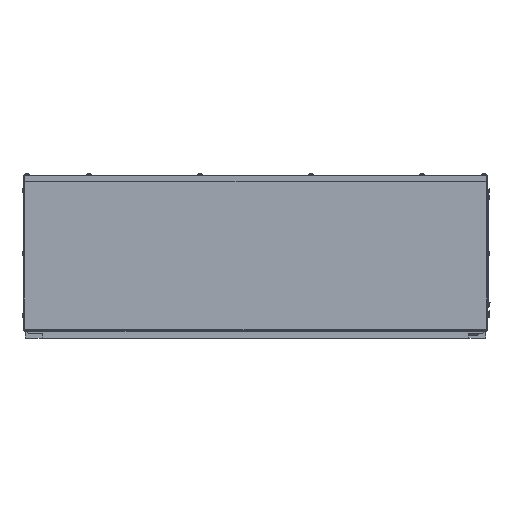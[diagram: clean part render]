
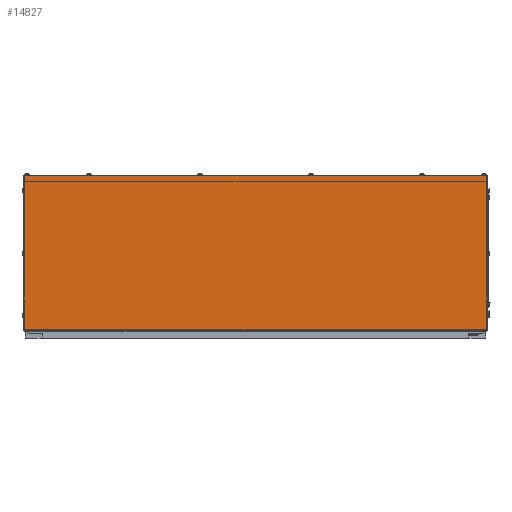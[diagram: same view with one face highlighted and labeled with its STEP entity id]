
A CAD part, top view. The second image highlights one B-rep face of the part: STEP entity #14827.
In plain terms, the highlighted planar face has unit normal (0, 0, 1) as drawn and (0, 0, -1) by its records, which use the part's own axes.
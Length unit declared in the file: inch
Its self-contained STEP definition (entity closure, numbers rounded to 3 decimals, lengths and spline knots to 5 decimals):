
#65 = VECTOR ( 'NONE', #36903, 39.37008 ) ;
#563 = VERTEX_POINT ( 'NONE', #7125 ) ;
#852 = VERTEX_POINT ( 'NONE', #1203 ) ;
#1203 = CARTESIAN_POINT ( 'NONE',  ( 9.03501, 27.32468, 0. ) ) ;
#1511 = ORIENTED_EDGE ( 'NONE', *, *, #5220, .T. ) ;
#2231 = LINE ( 'NONE', #10672, #17894 ) ;
#3032 = CARTESIAN_POINT ( 'NONE',  ( 22.83461, 27.32533, 0. ) ) ;
#3308 = VECTOR ( 'NONE', #29540, 39.37008 ) ;
#4839 = ORIENTED_EDGE ( 'NONE', *, *, #6939, .T. ) ;
#5152 = ORIENTED_EDGE ( 'NONE', *, *, #5762, .T. ) ;
#5220 = EDGE_CURVE ( 'NONE', #25542, #13675, #11882, .T. ) ;
#5503 = EDGE_CURVE ( 'NONE', #13706, #30509, #2231, .T. ) ;
#5762 = EDGE_CURVE ( 'NONE', #563, #27945, #26646, .T. ) ;
#5803 = ORIENTED_EDGE ( 'NONE', *, *, #6481, .T. ) ;
#6158 = EDGE_CURVE ( 'NONE', #29632, #34717, #17963, .T. ) ;
#6481 = EDGE_CURVE ( 'NONE', #34717, #25542, #22386, .T. ) ;
#6485 = EDGE_CURVE ( 'NONE', #13675, #15589, #14821, .T. ) ;
#6655 = EDGE_CURVE ( 'NONE', #15589, #19668, #8336, .T. ) ;
#6659 = EDGE_CURVE ( 'NONE', #19668, #13706, #11152, .T. ) ;
#6662 = EDGE_CURVE ( 'NONE', #30509, #563, #9271, .T. ) ;
#6780 = EDGE_CURVE ( 'NONE', #27945, #10328, #18492, .T. ) ;
#6939 = EDGE_CURVE ( 'NONE', #10328, #852, #13982, .T. ) ;
#6995 = EDGE_CURVE ( 'NONE', #852, #29632, #8849, .T. ) ;
#7125 = CARTESIAN_POINT ( 'NONE',  ( 9.06566, -14.25492, 0. ) ) ;
#7159 = CARTESIAN_POINT ( 'NONE',  ( 9.06566, -14.25427, 0. ) ) ;
#7169 = DIRECTION ( 'NONE',  ( 0., 1., 0. ) ) ;
#7273 = AXIS2_PLACEMENT_3D ( 'NONE', #25964, #25230, #24798 ) ;
#8007 = CARTESIAN_POINT ( 'NONE',  ( 9.06566, 27.32533, 0. ) ) ;
#8009 = ORIENTED_EDGE ( 'NONE', *, *, #6662, .T. ) ;
#8336 = LINE ( 'NONE', #30733, #3308 ) ;
#8663 = ORIENTED_EDGE ( 'NONE', *, *, #5503, .T. ) ;
#8849 = LINE ( 'NONE', #23083, #9792 ) ;
#9051 = ORIENTED_EDGE ( 'NONE', *, *, #6485, .T. ) ;
#9271 = LINE ( 'NONE', #29416, #19780 ) ;
#9591 = ORIENTED_EDGE ( 'NONE', *, *, #6655, .T. ) ;
#9792 = VECTOR ( 'NONE', #22912, 39.37008 ) ;
#10328 = VERTEX_POINT ( 'NONE', #36123 ) ;
#10500 = DIRECTION ( 'NONE',  ( 0., -1., 0. ) ) ;
#10672 = CARTESIAN_POINT ( 'NONE',  ( 22.83461, -14.25427, 0. ) ) ;
#11070 = CARTESIAN_POINT ( 'NONE',  ( 9.06566, -14.25427, 0. ) ) ;
#11152 = LINE ( 'NONE', #29563, #26332 ) ;
#11416 = ORIENTED_EDGE ( 'NONE', *, *, #6995, .T. ) ;
#11610 = CARTESIAN_POINT ( 'NONE',  ( 9.06566, 27.42468, 0. ) ) ;
#11882 = LINE ( 'NONE', #15433, #15595 ) ;
#13675 = VERTEX_POINT ( 'NONE', #33110 ) ;
#13706 = VERTEX_POINT ( 'NONE', #32637 ) ;
#13982 = LINE ( 'NONE', #24425, #22457 ) ;
#14579 = CARTESIAN_POINT ( 'NONE',  ( 32.20934, 27.32468, 0. ) ) ;
#14821 = LINE ( 'NONE', #14579, #65 ) ;
#14827 = ADVANCED_FACE ( 'NONE', ( #31995 ), #25742, .T. ) ;
#15075 = DIRECTION ( 'NONE',  ( 0., -1., 0. ) ) ;
#15433 = CARTESIAN_POINT ( 'NONE',  ( 22.83461, 27.42468, 0. ) ) ;
#15589 = VERTEX_POINT ( 'NONE', #22497 ) ;
#15595 = VECTOR ( 'NONE', #15075, 39.37008 ) ;
#17495 = CARTESIAN_POINT ( 'NONE',  ( 9.06566, 27.32468, 0. ) ) ;
#17894 = VECTOR ( 'NONE', #10500, 39.37008 ) ;
#17963 = LINE ( 'NONE', #11610, #32830 ) ;
#18001 = VECTOR ( 'NONE', #37022, 39.37008 ) ;
#18492 = LINE ( 'NONE', #27082, #19354 ) ;
#19354 = VECTOR ( 'NONE', #27124, 39.37008 ) ;
#19668 = VERTEX_POINT ( 'NONE', #26786 ) ;
#19780 = VECTOR ( 'NONE', #29156, 39.37008 ) ;
#22386 = LINE ( 'NONE', #37079, #18001 ) ;
#22457 = VECTOR ( 'NONE', #24415, 39.37008 ) ;
#22497 = CARTESIAN_POINT ( 'NONE',  ( 22.87348, 27.32468, 0. ) ) ;
#22704 = CARTESIAN_POINT ( 'NONE',  ( 22.83461, -14.25492, 0. ) ) ;
#22912 = DIRECTION ( 'NONE',  ( 1., 0., 0. ) ) ;
#23083 = CARTESIAN_POINT ( 'NONE',  ( 32.20934, 27.32468, 0. ) ) ;
#24415 = DIRECTION ( 'NONE',  ( 0., 1., 0. ) ) ;
#24425 = CARTESIAN_POINT ( 'NONE',  ( 9.03501, 36.68505, 0. ) ) ;
#24798 = DIRECTION ( 'NONE',  ( -1., 0., 0. ) ) ;
#25230 = DIRECTION ( 'NONE',  ( 0., 0., -1. ) ) ;
#25542 = VERTEX_POINT ( 'NONE', #3032 ) ;
#25742 = PLANE ( 'NONE',  #7273 ) ;
#25947 = DIRECTION ( 'NONE',  ( 0., 1., 0. ) ) ;
#25964 = CARTESIAN_POINT ( 'NONE',  ( 32.20934, 36.68505, 0. ) ) ;
#26332 = VECTOR ( 'NONE', #29614, 39.37008 ) ;
#26646 = LINE ( 'NONE', #7159, #34060 ) ;
#26786 = CARTESIAN_POINT ( 'NONE',  ( 22.87348, -14.25427, 0. ) ) ;
#27082 = CARTESIAN_POINT ( 'NONE',  ( 32.20934, -14.25427, 0. ) ) ;
#27124 = DIRECTION ( 'NONE',  ( -1., 0., 0. ) ) ;
#27904 = ORIENTED_EDGE ( 'NONE', *, *, #6659, .T. ) ;
#27945 = VERTEX_POINT ( 'NONE', #11070 ) ;
#28084 = ORIENTED_EDGE ( 'NONE', *, *, #6780, .T. ) ;
#29156 = DIRECTION ( 'NONE',  ( -1., 0., 0. ) ) ;
#29416 = CARTESIAN_POINT ( 'NONE',  ( 32.20934, -14.25492, 0. ) ) ;
#29540 = DIRECTION ( 'NONE',  ( 0., -1., 0. ) ) ;
#29563 = CARTESIAN_POINT ( 'NONE',  ( 32.20934, -14.25427, 0. ) ) ;
#29614 = DIRECTION ( 'NONE',  ( -1., 0., 0. ) ) ;
#29632 = VERTEX_POINT ( 'NONE', #17495 ) ;
#30509 = VERTEX_POINT ( 'NONE', #22704 ) ;
#30733 = CARTESIAN_POINT ( 'NONE',  ( 22.87348, 36.68505, 0. ) ) ;
#31995 = FACE_OUTER_BOUND ( 'NONE', #36366, .T. ) ;
#32633 = ORIENTED_EDGE ( 'NONE', *, *, #6158, .T. ) ;
#32637 = CARTESIAN_POINT ( 'NONE',  ( 22.83461, -14.25427, 0. ) ) ;
#32830 = VECTOR ( 'NONE', #25947, 39.37008 ) ;
#33110 = CARTESIAN_POINT ( 'NONE',  ( 22.83461, 27.32468, 0. ) ) ;
#34060 = VECTOR ( 'NONE', #7169, 39.37008 ) ;
#34717 = VERTEX_POINT ( 'NONE', #8007 ) ;
#36123 = CARTESIAN_POINT ( 'NONE',  ( 9.03501, -14.25427, 0. ) ) ;
#36366 = EDGE_LOOP ( 'NONE', ( #4839, #11416, #32633, #5803, #1511, #9051, #9591, #27904, #8663, #8009, #5152, #28084 ) ) ;
#36903 = DIRECTION ( 'NONE',  ( 1., 0., 0. ) ) ;
#37022 = DIRECTION ( 'NONE',  ( 1., 0., 0. ) ) ;
#37079 = CARTESIAN_POINT ( 'NONE',  ( 32.20934, 27.32533, 0. ) ) ;
